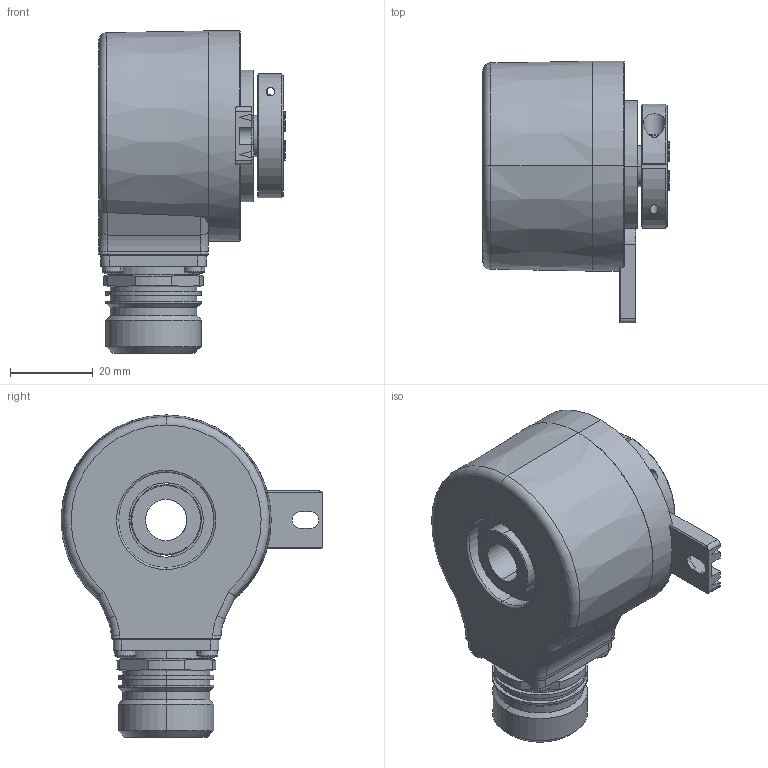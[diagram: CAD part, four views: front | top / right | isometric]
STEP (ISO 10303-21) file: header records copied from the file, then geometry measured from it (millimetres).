
FILE_DESCRIPTION (( 'STEP AP214' ), '1' );
FILE_NAME ('5020.23X4.XXXX.STEP', '2011-01-05T10:00:31', ( 'admin' ), ( 'Fritz Kübler GmbH' ), 'SwSTEP 2.0', 'SolidWorks 2009', '' );
FILE_SCHEMA (( 'AUTOMOTIVE_DESIGN' ));
Length unit declared in the file: millimetre
Products named in the file (1): 5020.23X4.XXXX
Bounding box: 45.1 x 63.3 x 77.9 mm (x, y, z)
Surface area: 20673.6 mm2 (no closed solid volume)
Topology: 0 solids, 35 shells, 393 faces, 1130 edges, 747 vertices
Faces by surface type: cylinder 152, plane 138, torus 36, sphere 32, cone 31, bspline 4
Entity records: 17580 total; most frequent: CARTESIAN_POINT 2772, DIRECTION 2399, ORIENTED_EDGE 1950, EDGE_CURVE 1106, AXIS2_PLACEMENT_3D 972, VERTEX_POINT 747, CIRCLE 582, LINE 455
